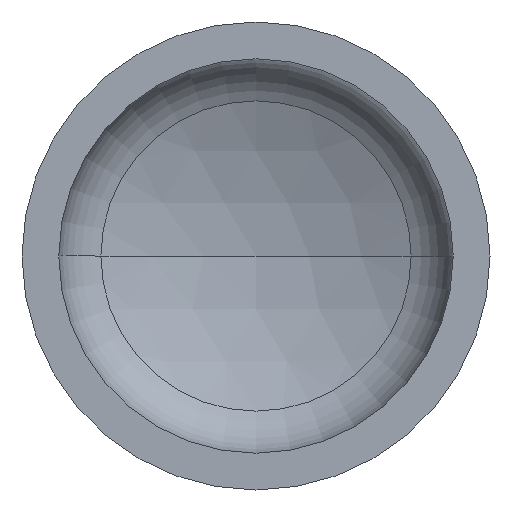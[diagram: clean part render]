
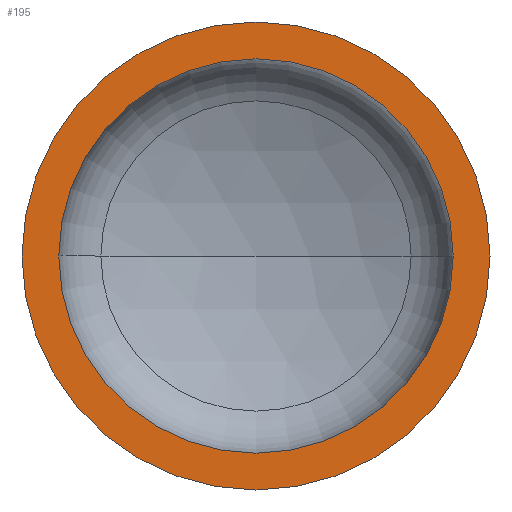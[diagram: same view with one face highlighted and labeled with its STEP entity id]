
A CAD part, front view. The second image highlights one B-rep face of the part: STEP entity #195.
In plain terms, the highlighted planar face has unit normal (0, -1, 0).
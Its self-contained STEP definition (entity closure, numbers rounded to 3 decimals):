
#8 = ORIENTED_EDGE ( 'NONE', *, *, #141, .F. ) ;
#31 = DIRECTION ( 'NONE',  ( 1., 0., 0. ) ) ;
#47 = CARTESIAN_POINT ( 'NONE',  ( 0., 0., 0. ) ) ;
#48 = FACE_OUTER_BOUND ( 'NONE', #130, .T. ) ;
#56 = VERTEX_POINT ( 'NONE', #208 ) ;
#65 = EDGE_LOOP ( 'NONE', ( #75, #8 ) ) ;
#75 = ORIENTED_EDGE ( 'NONE', *, *, #398, .F. ) ;
#84 = CARTESIAN_POINT ( 'NONE',  ( 0., 0., 0. ) ) ;
#85 = DIRECTION ( 'NONE',  ( 0., -1., 0. ) ) ;
#105 = ORIENTED_EDGE ( 'NONE', *, *, #410, .T. ) ;
#127 = AXIS2_PLACEMENT_3D ( 'NONE', #142, #184, #189 ) ;
#130 = EDGE_LOOP ( 'NONE', ( #168, #105 ) ) ;
#141 = EDGE_CURVE ( 'NONE', #202, #201, #402, .T. ) ;
#142 = CARTESIAN_POINT ( 'NONE',  ( -750., 0., 0. ) ) ;
#154 = DIRECTION ( 'NONE',  ( 0., -1., 0. ) ) ;
#163 = CARTESIAN_POINT ( 'NONE',  ( 632., 0., 0. ) ) ;
#168 = ORIENTED_EDGE ( 'NONE', *, *, #252, .T. ) ;
#172 = CARTESIAN_POINT ( 'NONE',  ( -632., 0., 0. ) ) ;
#173 = AXIS2_PLACEMENT_3D ( 'NONE', #47, #154, #360 ) ;
#177 = CARTESIAN_POINT ( 'NONE',  ( 0., 0., 0. ) ) ;
#179 = CIRCLE ( 'NONE', #230, 750. ) ;
#180 = DIRECTION ( 'NONE',  ( 0., -1., 0. ) ) ;
#184 = DIRECTION ( 'NONE',  ( 0., 1., 0. ) ) ;
#189 = DIRECTION ( 'NONE',  ( -1., 0., 0. ) ) ;
#195 = ADVANCED_FACE ( 'NONE', ( #379, #48 ), #197, .F. ) ;
#197 = PLANE ( 'NONE',  #127 ) ;
#201 = VERTEX_POINT ( 'NONE', #163 ) ;
#202 = VERTEX_POINT ( 'NONE', #172 ) ;
#208 = CARTESIAN_POINT ( 'NONE',  ( -750., 0., 0. ) ) ;
#215 = CARTESIAN_POINT ( 'NONE',  ( 750., 0., 0. ) ) ;
#230 = AXIS2_PLACEMENT_3D ( 'NONE', #84, #85, #31 ) ;
#235 = AXIS2_PLACEMENT_3D ( 'NONE', #177, #180, #239 ) ;
#239 = DIRECTION ( 'NONE',  ( 1., 0., 0. ) ) ;
#240 = CIRCLE ( 'NONE', #235, 750. ) ;
#252 = EDGE_CURVE ( 'NONE', #294, #56, #240, .T. ) ;
#294 = VERTEX_POINT ( 'NONE', #215 ) ;
#297 = DIRECTION ( 'NONE',  ( 1., 0., 0. ) ) ;
#359 = AXIS2_PLACEMENT_3D ( 'NONE', #366, #371, #297 ) ;
#360 = DIRECTION ( 'NONE',  ( 1., 0., 0. ) ) ;
#366 = CARTESIAN_POINT ( 'NONE',  ( 0., 0., 0. ) ) ;
#371 = DIRECTION ( 'NONE',  ( 0., -1., 0. ) ) ;
#379 = FACE_BOUND ( 'NONE', #65, .T. ) ;
#398 = EDGE_CURVE ( 'NONE', #201, #202, #399, .T. ) ;
#399 = CIRCLE ( 'NONE', #173, 632. ) ;
#402 = CIRCLE ( 'NONE', #359, 632. ) ;
#410 = EDGE_CURVE ( 'NONE', #56, #294, #179, .T. ) ;
